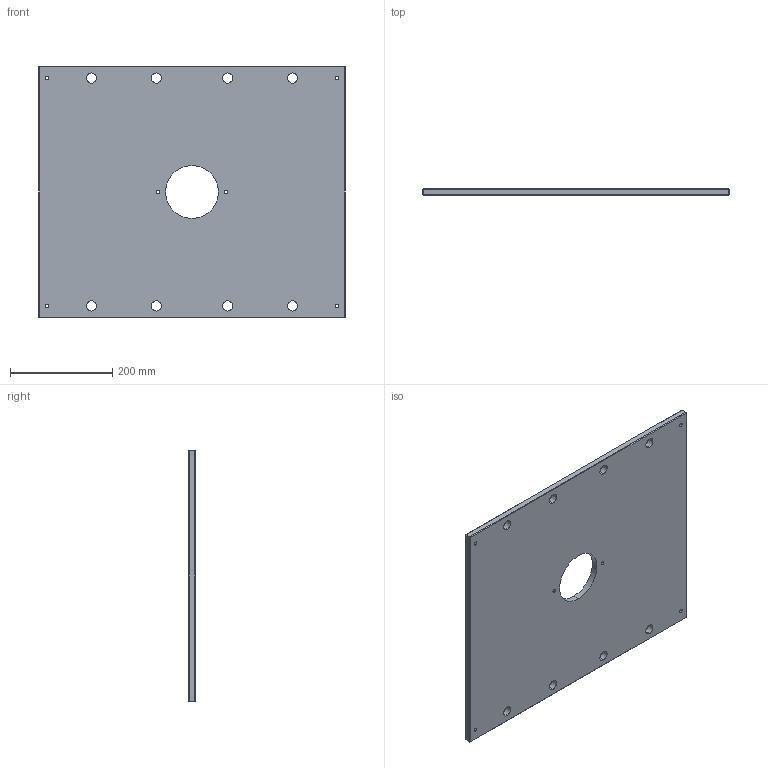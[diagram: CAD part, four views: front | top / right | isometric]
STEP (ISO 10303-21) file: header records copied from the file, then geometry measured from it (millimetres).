
FILE_DESCRIPTION (( 'STEP AP214' ), '1' );
FILE_NAME ('ME-0619-CH-1924.STEP', '2020-02-13T10:13:33', ( '' ), ( '' ), 'SwSTEP 2.0', 'SolidWorks 2018', '' );
FILE_SCHEMA (( 'AUTOMOTIVE_DESIGN' ));
Length unit declared in the file: inch
Products named in the file (1): ME-0619-CH-1924
Bounding box: 600.08 x 12.7 x 492.12 mm (x, y, z)
Volume: 3605260.1 mm3; surface area: 604895.2 mm2
Topology: 1 solids, 1 shells, 68 faces, 162 edges, 96 vertices
Faces by surface type: cylinder 30, plane 26, cone 12
Entity records: 2050 total; most frequent: DIRECTION 372, CARTESIAN_POINT 327, ORIENTED_EDGE 324, EDGE_CURVE 162, AXIS2_PLACEMENT_3D 141, EDGE_LOOP 98, VERTEX_POINT 96, VECTOR 90
